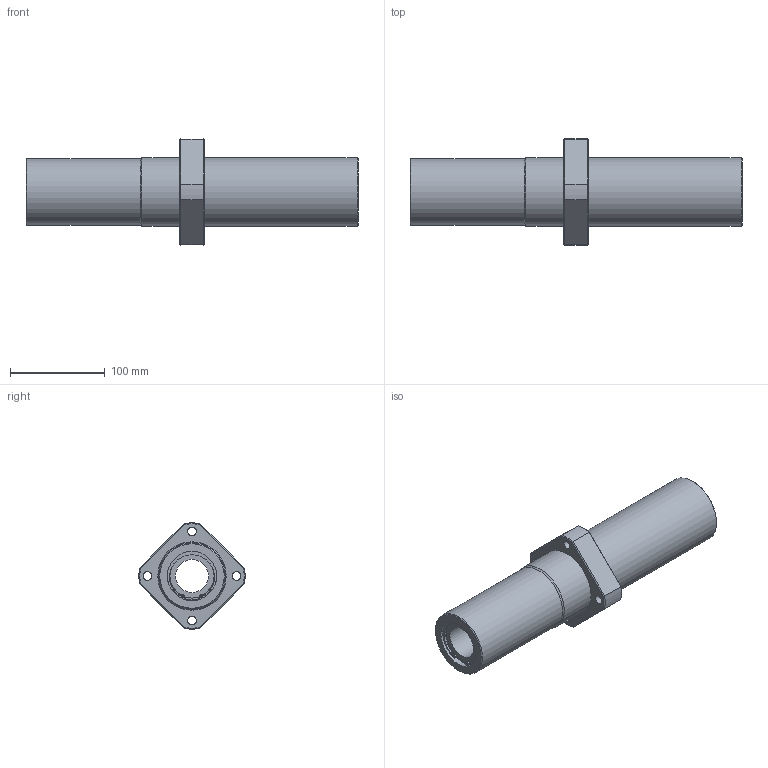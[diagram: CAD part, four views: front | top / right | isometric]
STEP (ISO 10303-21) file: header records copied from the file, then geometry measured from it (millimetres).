
FILE_DESCRIPTION((''),'2;1');
FILE_NAME('C:\Documents and Settings\土屋\My Documents\土屋移動用フォルダ\製品 (図面)\カタログ用3D\変換ファイル\OZAK_3D-CAD(STEP形式)\Part1.-Linear Bearings_ﾘﾆｱﾍﾞｱﾘﾝｸﾞ\09_Maintenance Free_ﾒｲﾝﾃﾅﾝｽﾌﾘｰ\L2017-09-22T14:17:17','2017-09-22T14:17:17',('y'),(''),'Autodesk Inventor 11','Autodesk Inventor 11','');
FILE_SCHEMA(('AUTOMOTIVE_DESIGN { 1 0 10303 214 1 1 1 1 }'));
Length unit declared in the file: millimetre
Products named in the file (1): LFWLC35MF
Bounding box: 350 x 111.86 x 111.86 mm (x, y, z)
Volume: 1139937.4 mm3; surface area: 145767.2 mm2
Topology: 1 solids, 7 shells, 115 faces, 281 edges, 170 vertices
Faces by surface type: plane 36, bspline 34, cylinder 32, cone 11, torus 2
Full cylindrical faces by diameter (mm): 2.5 x2, 9 x4, 35 x2, 46.4 x2, 49 x2, 52 x8, 70 x1, 72 x2
Entity records: 3405 total; most frequent: CARTESIAN_POINT 896, DIRECTION 532, ORIENTED_EDGE 452, AXIS2_PLACEMENT_3D 240, EDGE_CURVE 226, EDGE_LOOP 186, CIRCLE 158, VERTEX_POINT 154
